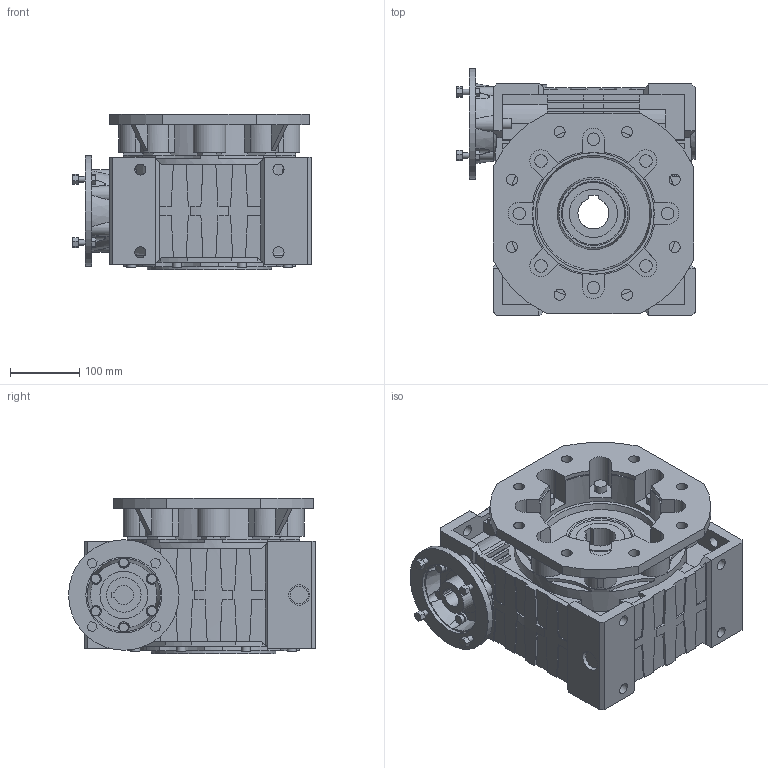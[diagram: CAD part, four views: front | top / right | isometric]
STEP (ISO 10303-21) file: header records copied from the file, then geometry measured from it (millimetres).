
FILE_DESCRIPTION(('FreeCAD Model'),'2;1');
FILE_NAME('Open CASCADE Shape Model','2025-12-02T16:38:20',(''),(''), 'Open CASCADE STEP processor 7.6','FreeCAD','Unknown');
FILE_SCHEMA(('AUTOMOTIVE_DESIGN { 1 0 10303 214 1 1 1 1 }'));
Length unit declared in the file: millimetre
Products named in the file (3): Unnamed2; 130_001; 3D STEP FA-130-151_001
Assembly tree (2 placements, depth 2):
  Unnamed2
    130_001
    3D STEP FA-130-151_001
Bounding box: 345.5 x 357.5 x 225 mm (x, y, z)
Volume: 13829701 mm3; surface area: 977872.3 mm2
Topology: 4 solids, 5 shells, 990 faces, 2692 edges, 1783 vertices
Faces by surface type: plane 671, cylinder 266, cone 51, revolution 2
Full cylindrical faces by diameter (mm): 3.675 x3, 8 x4, 10.106 x16, 13 x14, 16 x12, 20 x4, 26 x1, 30 x4, 49 x1, 50 x1, 61 x1, 68 x1, 69 x1, 70 x2, 80 x1, 110 x1, 160 x1, 180 x2
Entity records: 31384 total; most frequent: CARTESIAN_POINT 5857, ORIENTED_EDGE 5352, DIRECTION 5234, EDGE_CURVE 2676, VERTEX_POINT 1783, LINE 1780, VECTOR 1780, AXIS2_PLACEMENT_3D 1726
